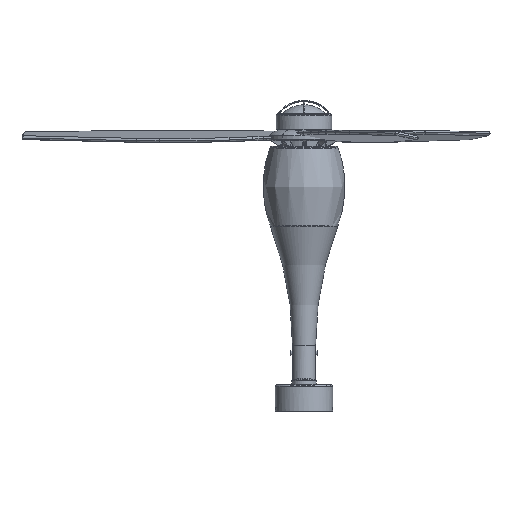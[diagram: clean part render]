
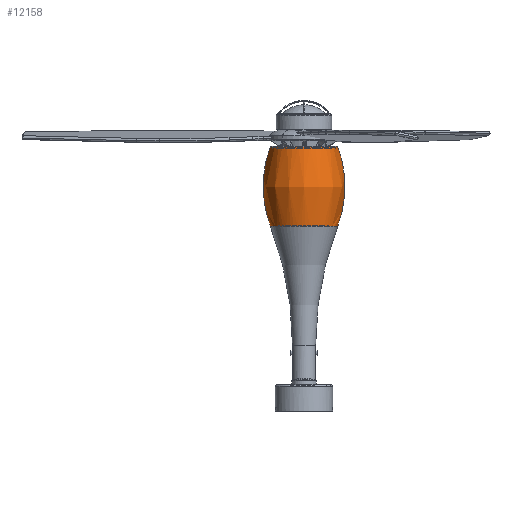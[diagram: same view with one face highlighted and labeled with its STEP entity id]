
A CAD part, left-side view. The second image highlights one B-rep face of the part: STEP entity #12158.
In plain terms, the highlighted free-form (B-spline) face has degree [2, 2] with [3, 5] control points.
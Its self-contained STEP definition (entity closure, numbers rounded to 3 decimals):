
#59=(
BOUNDED_SURFACE()
B_SPLINE_SURFACE(2,2,((#23484,#23485,#23486,#23487,#23488),(#23489,#23490,
#23491,#23492,#23493),(#23494,#23495,#23496,#23497,#23498)),
 .UNSPECIFIED.,.F.,.F.,.F.)
B_SPLINE_SURFACE_WITH_KNOTS((3,3),(3,2,3),(-0.364,0.357),
(-1.571,0.,1.571),.UNSPECIFIED.)
GEOMETRIC_REPRESENTATION_ITEM()
RATIONAL_B_SPLINE_SURFACE(((1.,0.707,1.,0.707,1.),
(0.936,0.662,0.936,0.662,
0.936),(1.,0.707,1.,0.707,1.)))
REPRESENTATION_ITEM('')
SURFACE()
);
#685=CIRCLE('',#13056,76.702);
#686=CIRCLE('',#13057,253.144);
#687=CIRCLE('',#13058,253.144);
#1444=FACE_OUTER_BOUND('',#2236,.T.);
#2236=EDGE_LOOP('',(#9356,#9357,#9358,#9359));
#3065=B_SPLINE_CURVE_WITH_KNOTS('',3,(#22348,#22349,#22350,#22351,#22352,
#22353,#22354,#22355,#22356,#22357,#22358),.UNSPECIFIED.,.F.,.F.,(4,1,1,
1,1,1,1,1,4),(0.,0.125,0.25,0.375,0.5,0.625,0.75,0.875,1.),
 .UNSPECIFIED.);
#5223=VERTEX_POINT('',#22226);
#5224=VERTEX_POINT('',#22227);
#5237=VERTEX_POINT('',#23016);
#5238=VERTEX_POINT('',#23240);
#6684=EDGE_CURVE('',#5224,#5223,#3065,.T.);
#6709=EDGE_CURVE('',#5237,#5238,#685,.T.);
#6710=EDGE_CURVE('',#5223,#5237,#686,.T.);
#6711=EDGE_CURVE('',#5238,#5224,#687,.T.);
#9356=ORIENTED_EDGE('',*,*,#6709,.T.);
#9357=ORIENTED_EDGE('',*,*,#6711,.T.);
#9358=ORIENTED_EDGE('',*,*,#6684,.T.);
#9359=ORIENTED_EDGE('',*,*,#6710,.T.);
#12158=ADVANCED_FACE('',(#1444),#59,.F.);
#13056=AXIS2_PLACEMENT_3D('',#23466,#14842,#14843);
#13057=AXIS2_PLACEMENT_3D('',#23482,#14844,#14845);
#13058=AXIS2_PLACEMENT_3D('',#23483,#14846,#14847);
#14842=DIRECTION('center_axis',(0.,0.,
-1.));
#14843=DIRECTION('ref_axis',(1.,0.,0.));
#14844=DIRECTION('center_axis',(-1.,0.,0.));
#14845=DIRECTION('ref_axis',(0.,-1.,0.));
#14846=DIRECTION('center_axis',(-1.,0.,0.));
#14847=DIRECTION('ref_axis',(0.,1.,0.));
#22226=CARTESIAN_POINT('',(0.,-76.14,418.901));
#22227=CARTESIAN_POINT('',(0.,76.14,418.901));
#22348=CARTESIAN_POINT('Ctrl Pts',(0.,76.14,418.901));
#22349=CARTESIAN_POINT('Ctrl Pts',(-10.007,76.24,418.901));
#22350=CARTESIAN_POINT('Ctrl Pts',(-29.877,72.129,418.901));
#22351=CARTESIAN_POINT('Ctrl Pts',(-55.246,55.253,418.901));
#22352=CARTESIAN_POINT('Ctrl Pts',(-72.174,29.893,418.901));
#22353=CARTESIAN_POINT('Ctrl Pts',(-78.123,0.,
418.901));
#22354=CARTESIAN_POINT('Ctrl Pts',(-72.174,-29.893,418.901));
#22355=CARTESIAN_POINT('Ctrl Pts',(-55.246,-55.253,418.901));
#22356=CARTESIAN_POINT('Ctrl Pts',(-29.877,-72.129,
418.901));
#22357=CARTESIAN_POINT('Ctrl Pts',(-10.007,-76.24,
418.901));
#22358=CARTESIAN_POINT('Ctrl Pts',(0.,-76.14,
418.901));
#23016=CARTESIAN_POINT('',(0.,-76.702,597.471));
#23240=CARTESIAN_POINT('',(0.,76.702,597.471));
#23466=CARTESIAN_POINT('Origin',(0.,0.,
597.471));
#23482=CARTESIAN_POINT('Origin',(0.,160.454,
508.931));
#23483=CARTESIAN_POINT('Origin',(0.,-160.454,508.931));
#23484=CARTESIAN_POINT('Ctrl Pts',(0.,76.137,
418.892));
#23485=CARTESIAN_POINT('Ctrl Pts',(-76.137,76.137,418.892));
#23486=CARTESIAN_POINT('Ctrl Pts',(-76.137,0.,
418.892));
#23487=CARTESIAN_POINT('Ctrl Pts',(-76.137,-76.137,
418.892));
#23488=CARTESIAN_POINT('Ctrl Pts',(0.,-76.137,
418.892));
#23489=CARTESIAN_POINT('Ctrl Pts',(0.,110.077,
508.075));
#23490=CARTESIAN_POINT('Ctrl Pts',(-110.077,110.077,508.075));
#23491=CARTESIAN_POINT('Ctrl Pts',(-110.077,0.,
508.075));
#23492=CARTESIAN_POINT('Ctrl Pts',(-110.077,-110.077,508.075));
#23493=CARTESIAN_POINT('Ctrl Pts',(0.,-110.077,
508.075));
#23494=CARTESIAN_POINT('Ctrl Pts',(0.,76.702,
597.471));
#23495=CARTESIAN_POINT('Ctrl Pts',(-76.702,76.702,597.471));
#23496=CARTESIAN_POINT('Ctrl Pts',(-76.702,0.,
597.471));
#23497=CARTESIAN_POINT('Ctrl Pts',(-76.702,-76.702,597.471));
#23498=CARTESIAN_POINT('Ctrl Pts',(0.,-76.702,
597.471));
